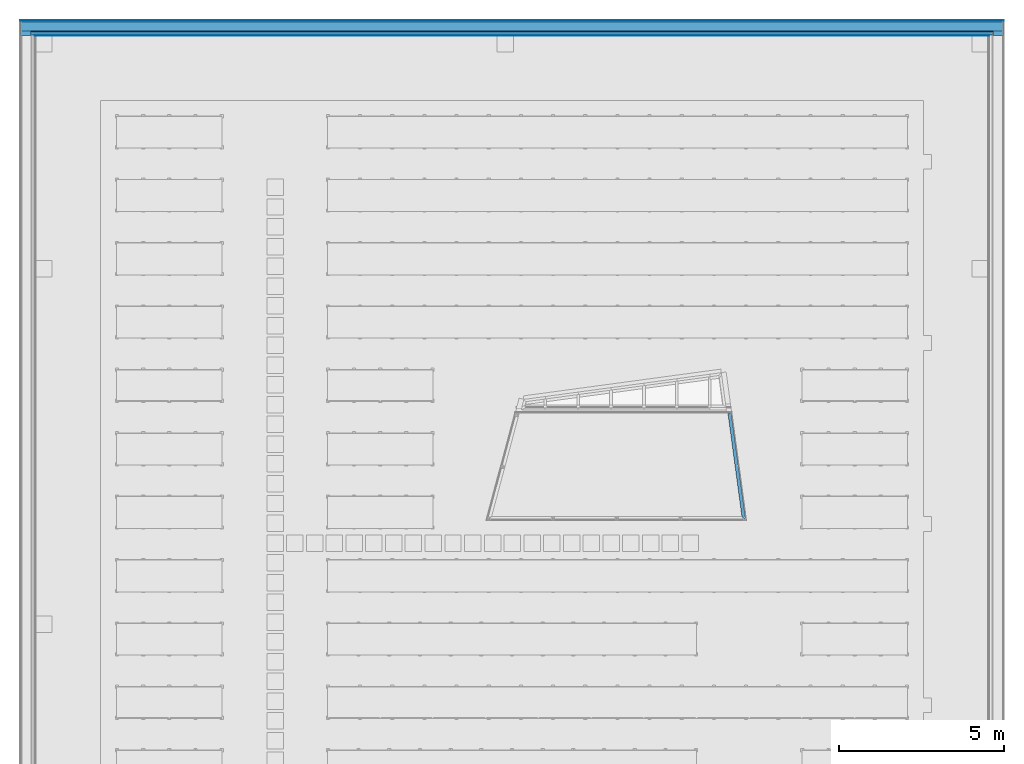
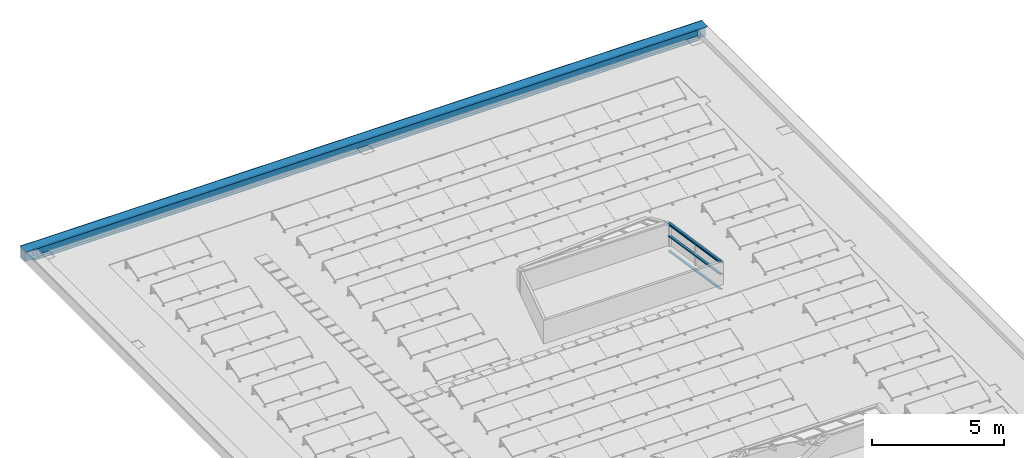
# One storey, part 14 of 20: 13 building element parts, 2 elements without a shape of their own.
"""IFC2X3 building model written with IfcOpenShell, lengths in millimetres."""

from ifc_helpers import new_model, entity, si_unit, converted_unit, derived_unit, money_unit, direction, frame, origin_with_axes, place, context, subcontext, project, spatial, faceted_brep, material, type_object, element, aggregate, save


model = new_model("IFC2X3")

# Units and contexts
model_context = context("Model", 3, precision=0.01, world=origin_with_axes(), true_north=direction((0.0, 1.0)))
plan_context = context("Plan", 3, precision=0.01, world=origin_with_axes(), true_north=direction((0.0, 1.0)))
body_context = subcontext(model_context, "Body", "Model", "MODEL_VIEW")
ifc_project = project(units=[si_unit("LENGTHUNIT", "METRE", prefix="MILLI"), si_unit("AREAUNIT", "SQUARE_METRE"), si_unit("VOLUMEUNIT", "CUBIC_METRE"), converted_unit("PLANEANGLEUNIT", "DEGREE", entity("IfcPlaneAngleMeasure", 0.0174532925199), si_unit("PLANEANGLEUNIT", "RADIAN"), dimensions=[0, 0, 0, 0, 0, 0, 0]), si_unit("SOLIDANGLEUNIT", "STERADIAN"), money_unit("EUR"), converted_unit("TIMEUNIT", "Year", entity("IfcTimeMeasure", 31556926.0), si_unit("TIMEUNIT", "SECOND"), dimensions=[0, 0, 1, 0, 0, 0, 0]), si_unit("MASSUNIT", "GRAM", prefix="KILO"), si_unit("THERMODYNAMICTEMPERATUREUNIT", "DEGREE_CELSIUS"), si_unit("LUMINOUSINTENSITYUNIT", "LUMEN"), si_unit("ENERGYUNIT", "JOULE", prefix="MEGA"), derived_unit("THERMALCONDUCTANCEUNIT", [(si_unit("POWERUNIT", "WATT"), 1), (si_unit("LENGTHUNIT", "METRE"), -1), (si_unit("THERMODYNAMICTEMPERATUREUNIT", "KELVIN"), -1)]), derived_unit("SPECIFICHEATCAPACITYUNIT", [(si_unit("ENERGYUNIT", "JOULE"), 1), (si_unit("MASSUNIT", "GRAM", prefix="KILO"), -1), (si_unit("THERMODYNAMICTEMPERATUREUNIT", "KELVIN"), -1)]), derived_unit("MASSDENSITYUNIT", [(si_unit("MASSUNIT", "GRAM", prefix="KILO"), 1), (si_unit("VOLUMEUNIT", "CUBIC_METRE"), -1)])], contexts=[model_context, plan_context])

# Site, building, storey
site_placement = place(None, origin_with_axes())
site = spatial("IfcSite", under=ifc_project, at=site_placement, Name="Site", CompositionType="ELEMENT")
building_placement = place(site_placement, origin_with_axes())
building = spatial("IfcBuilding", under=site, at=building_placement, Name="Naam gebouw", CompositionType="ELEMENT")
storey_placement = place(building_placement, frame((0.0, 0.0, 7920.0), z_axis=(0.0, 0.0, 1.0), x_axis=(1.0, 0.0, 0.0)))
storey = spatial("IfcBuildingStorey", under=building, at=storey_placement, Name="2e verdieping", CompositionType="ELEMENT", Elevation=7920.0)

# Wall, building element parts
wall_type = type_object("IfcWallType", Name="_TenW_27_dakrand_01 473 x 542", PredefinedType="NOTDEFINED")
wall_placement = place(storey_placement, frame((29200.0, 50400.0, 0.0), z_axis=(0.0, 0.0, 1.0), x_axis=(-1.0, 0.0, 0.0)))
wall = element("IfcWall", 1, at=wall_placement, inside=storey, type_object=wall_type, Name="21_Wand_Wand-x")
ifc_material_1 = material(Name="Membraan - waterdicht")
building_element_part_1_placement = place(wall_placement, origin_with_axes())
building_element_part_1 = element("IfcBuildingElementPart", 2, at=building_element_part_1_placement, material=ifc_material_1, Name="Membraan - waterdicht", context=body_context, shape_type="Brep", body=[
    faceted_brep([(138.42922846, 139.429230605, 245.0), (138.42922846, 138.429230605, 245.0), (138.42922846, 138.429230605, 529.388912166), (138.42922846, 139.429230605, 529.388912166), (29061.5707715, 138.429230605, 245.0), (29061.5707715, 139.429230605, 245.0), (29061.5707715, 138.429230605, 529.388912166), (-324.789198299, 139.429230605, 529.388912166), (-324.789198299, 138.429230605, 529.388912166), (-324.789198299, 139.429230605, 530.388913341), (29524.7891983, 139.429230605, 530.388913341), (29524.7891983, 139.429230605, 529.388912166), (29061.5707715, 139.429230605, 529.388912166), (29524.7891983, 138.429230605, 529.388912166), (29524.7891983, -324.789202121, 529.388913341), (-324.789198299, -324.789202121, 529.388913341), (-324.789198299, -324.789202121, 530.388913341), (29524.7891983, -324.789202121, 530.388913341)], [[[0, 1, 2, 3]], [[4, 1, 0, 5]], [[1, 4, 6, 2]], [[7, 3, 2, 8]], [[5, 0, 3, 7, 9, 10, 11, 12]], [[4, 5, 12, 6]], [[2, 6, 13, 14, 15, 8]], [[16, 9, 7, 8, 15]], [[16, 17, 10, 9]], [[14, 13, 11, 10, 17]], [[6, 12, 11, 13]], [[15, 14, 17, 16]]]),
])
ifc_material_2 = material(Name="Hout - Multiplex")
building_element_part_2_placement = place(wall_placement, origin_with_axes())
building_element_part_2 = element("IfcBuildingElementPart", 3, at=building_element_part_2_placement, material=ifc_material_2, Name="Hout - Multiplex", context=body_context, shape_type="Brep", body=[
    faceted_brep([(119.976073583, 137.976077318, 240.0), (119.976073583, 119.976074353, 240.0), (119.976074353, 119.976072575, 471.373647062), (119.976074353, 137.97607732, 471.373649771), (29080.0239264, 119.976074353, 240.0), (29080.0239264, 137.976077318, 240.0), (29080.0239256, 119.976072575, 471.373649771), (119.976084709, 119.976081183, 509.060682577), (119.976084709, 137.976077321, 509.060682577), (119.976081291, 137.976078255, 509.366891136), (29080.0239187, 137.976078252, 509.366891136), (29080.0239153, 137.976077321, 509.060682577), (29080.0239256, 137.97607732, 471.373649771), (29080.0239153, 119.976081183, 509.060682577), (119.976081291, 119.976080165, 509.366891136), (29080.0239187, 119.976080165, 509.366891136)], [[[0, 1, 2, 3]], [[4, 1, 0, 5]], [[1, 4, 6, 2]], [[7, 8, 3, 2]], [[5, 0, 3, 8, 9, 10, 11, 12]], [[4, 5, 12, 6]], [[2, 6, 13, 7]], [[9, 8, 7, 14]], [[14, 15, 10, 9]], [[15, 13, 11, 10]], [[6, 12, 11, 13]], [[7, 13, 15, 14]]]),
])
ifc_material_3 = material(Name="Hout C")
building_element_part_3_placement = place(wall_placement, origin_with_axes())
building_element_part_3 = element("IfcBuildingElementPart", 4, at=building_element_part_3_placement, material=ifc_material_3, Name="Hout C", context=body_context, shape_type="Brep", body=[
    faceted_brep([(18.4936515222, 18.4936521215, 37.9754133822), (29181.5063485, 18.4936521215, 37.9754133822), (29181.5063485, 119.976072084, 37.9754133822), (18.4936515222, 119.976072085, 37.9754133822), (18.5136353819, 18.5136337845, 6.65253132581e-05), (29181.4863646, 18.5136337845, 6.65253132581e-05), (29181.4863646, 119.976072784, 6.65253132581e-05), (18.5136353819, 119.976072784, 6.65253132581e-05)], [[[0, 1, 2, 3]], [[4, 5, 1, 0]], [[5, 6, 2, 1]], [[3, 2, 6, 7]], [[3, 7, 4, 0]], [[4, 7, 6, 5]]]),
])
building_element_part_4_placement = place(wall_placement, origin_with_axes())
building_element_part_4 = element("IfcBuildingElementPart", 5, at=building_element_part_4_placement, material=ifc_material_3, Name="Hout C", context=body_context, shape_type="Brep", body=[
    faceted_brep([(29182.0917192, 119.831228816, 471.373652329), (29182.0917192, 17.9082871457, 471.373648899), (17.9082808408, 17.9082870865, 471.373648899), (17.9082808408, 119.831228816, 471.373652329), (29182.0917117, 119.831233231, 509.060682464), (29182.0917116, 119.831235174, 509.366893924), (29182.0917137, 17.9082863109, 509.508760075), (17.9082862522, 17.9082863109, 509.508760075), (17.9082883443, 119.831233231, 509.060682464), (17.9082884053, 119.831235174, 509.366893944)], [[[0, 1, 2, 3]], [[0, 4, 5, 6, 1]], [[1, 6, 7, 2]], [[8, 3, 2, 7, 9]], [[4, 0, 3, 8]], [[5, 4, 8, 9]], [[6, 5, 9, 7]]]),
])
building_element_part_5_placement = place(wall_placement, origin_with_axes())
building_element_part_5 = element("IfcBuildingElementPart", 6, at=building_element_part_5_placement, material=ifc_material_2, Name="Hout - Multiplex", context=body_context, shape_type="Brep", body=[
    faceted_brep([(29200.0, 17.9082808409, 471.373647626), (29200.0, 1.58033941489e-06, 471.373647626), (8.11439804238e-09, 1.58033941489e-06, 471.373647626), (8.11439804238e-09, 17.9082808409, 471.373647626), (29200.0, 17.9082883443, 509.060682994), (29200.0, 1.66487268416e-06, 509.060682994), (0.0, 1.66486557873e-06, 509.060682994), (0.0, 17.9082883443, 509.060682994), (-0.0911615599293, 17.9082883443, 509.060678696), (-0.0916934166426, 17.9082884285, 509.483711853), (17.9082862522, 17.9082884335, 509.508760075), (29182.0917137, 17.9082884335, 509.508760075), (29200.0916934, 17.9082884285, 509.483711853), (29200.0911616, 17.9082883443, 509.060678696), (29200.0911616, -0.0911633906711, 509.060686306), (-0.0911615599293, -0.0911633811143, 509.060678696), (-0.0916934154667, -0.0916948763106, 509.483710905), (29200.0916934, -0.0916948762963, 509.483710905)], [[[0, 1, 2, 3]], [[0, 4, 5, 1]], [[1, 5, 6, 2]], [[3, 2, 6, 7]], [[4, 0, 3, 7, 8, 9, 10, 11, 12, 13]], [[4, 13, 14, 15, 8, 7, 6, 5]], [[9, 8, 15, 16]], [[10, 9, 16]], [[17, 11, 10, 16]], [[17, 12, 11]], [[13, 12, 17, 14]], [[14, 17, 16, 15]]]),
    faceted_brep([(29199.4535025, 18.5136353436, 6.88062833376e-05), (29199.5010731, 18.4936515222, 37.9754133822), (29199.5010731, 0.498929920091, 37.9754133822), (29199.4535025, 0.546496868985, 6.88062833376e-05), (1.4292306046, 18.5136353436, 6.88062833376e-05), (0.54649751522, 18.5136353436, 6.88062833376e-05), (0.4989268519, 18.4936515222, 37.9754133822), (0.4989268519, 0.498929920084, 37.9754133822), (0.54649751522, 0.546496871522, 6.88062833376e-05), (1.4292306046, 0.546496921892, -7.59371232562e-07)], [[[0, 1, 2, 3]], [[1, 0, 4, 5, 6]], [[1, 6, 7, 2]], [[3, 2, 7, 8, 9]], [[4, 0, 3, 9]], [[4, 9, 8, 5]], [[5, 8, 7, 6]]]),
])
ifc_material_4 = material(Name="Isolatie - Glaswol zacht")
building_element_part_6_placement = place(wall_placement, origin_with_axes())
building_element_part_6 = element("IfcBuildingElementPart", 7, at=building_element_part_6_placement, material=ifc_material_4, Name="Isolatie - Glaswol zacht", context=body_context, shape_type="Brep", body=[
    faceted_brep([(1.4292306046, 0.0, 240.0), (29200.0, 0.0, 240.0), (29200.0, 1.01678665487e-07, 471.373644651), (8.11439804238e-09, 1.0167156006e-07, 471.373644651), (1.01675112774e-07, 1.0167156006e-07, 37.9754133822), (1.4292306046, 0.0, 37.9754161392), (1.4292306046, 119.976074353, 240.0), (29200.0, 119.976074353, 240.0), (29200.0, 119.976074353, 471.373644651), (29200.0, 119.831234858, 471.373644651), (8.11439804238e-09, 119.831234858, 471.373644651), (1.01675112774e-07, 119.976074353, 37.9754133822), (1.01675112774e-07, 0.498929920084, 37.9754133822), (8.11439804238e-09, 119.976074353, 471.373644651), (1.4292306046, 0.498929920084, 37.9754133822), (1.4292306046, 18.4936515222, 37.9754133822), (1.4292306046, 119.976074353, 37.9754133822)], [[[0, 1, 2, 3, 4, 5]], [[1, 0, 6, 7]], [[1, 7, 8, 9, 2]], [[3, 2, 9, 10]], [[11, 12, 4, 3, 10, 13]], [[14, 5, 4, 12]], [[0, 5, 14, 15, 16, 6]], [[6, 16, 11, 13, 8, 7]], [[10, 9, 8, 13]], [[15, 14, 12, 11, 16]]]),
])
building_element_part_7_placement = place(wall_placement, origin_with_axes())
building_element_part_7 = element("IfcBuildingElementPart", 8, at=building_element_part_7_placement, material=ifc_material_4, Name="Isolatie - Glaswol zacht", context=body_context, shape_type="Brep", body=[
    faceted_brep([(-303.999997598, 1.0167156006e-07, 37.9754133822), (29503.9999976, 1.01678665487e-07, 37.9754133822), (29503.9999976, 0.0, -3.91967791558e-06), (-303.999997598, 0.0, -3.91967791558e-06), (-303.999997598, 0.0, 509.060682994), (29503.9999976, 0.0, 509.060682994), (29503.9999976, -304.0, -3.91967791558e-06), (29503.9999976, -304.000000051, 509.060682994), (-303.999997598, -304.000000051, -3.91967791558e-06), (-303.999997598, -304.000000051, 509.060682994)], [[[0, 1, 2, 3]], [[4, 5, 1, 0]], [[6, 2, 1, 5, 7]], [[3, 2, 6, 8]], [[4, 0, 3, 8, 9]], [[7, 5, 4, 9]], [[8, 6, 7, 9]]]),
])
building_element_part_8_placement = place(wall_placement, origin_with_axes())
building_element_part_8 = element("IfcBuildingElementPart", 9, at=building_element_part_8_placement, material=ifc_material_2, Name="Hout - Multiplex", context=body_context, shape_type="Brep", body=[
    faceted_brep([(29523.3181359, 17.9091777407, 509.508762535), (29523.3181359, 137.976080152, 509.508762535), (29523.3181359, 137.976080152, 526.546857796), (29523.3181359, -277.984633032, 526.546857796), (29523.3181359, -323.318138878, 526.546857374), (29523.3181359, -323.318138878, 509.060688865), (29523.3181359, -0.091162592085, 509.060678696), (29523.3181359, -0.0916913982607, 509.483713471), (29523.3181359, 12.5479571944, 509.50130164), (29182.0917137, 17.9082862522, 509.508761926), (29182.0917137, 137.976080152, 509.508760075), (29477.9846239, 137.976080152, 526.54685988), (29080.1687648, 137.976080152, 509.366893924), (119.831235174, 137.976080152, 509.366893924), (17.9082862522, 137.976080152, 509.508760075), (-323.318135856, 137.976080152, 509.508762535), (-323.318135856, 137.976080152, 526.546857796), (-277.984623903, 137.976080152, 526.54685988), (-277.984633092, 137.976080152, 527.060685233), (29477.9846331, 137.976080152, 527.060685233), (29477.9846239, -277.984633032, 526.54685988), (-277.984623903, -277.984633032, 526.54685988), (-323.318135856, -277.984633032, 526.546857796), (-323.318135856, -323.318138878, 526.546857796), (-323.318135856, -323.318138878, 509.060688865), (-323.318135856, -0.091162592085, 509.060678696), (-323.318135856, -0.0916913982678, 509.483713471), (-323.318135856, 12.5479571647, 509.50130164), (-323.318135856, 17.9091777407, 509.508762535), (17.9082862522, 17.9082862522, 509.508761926), (29080.7450453, 119.831233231, 509.366965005), (29080.1687648, 119.976079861, 509.366888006), (119.831235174, 119.976079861, 509.366888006), (119.798708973, 119.976074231, 509.366885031), (119.831235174, 119.831234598, 509.366888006), (119.798443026, 119.831233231, 509.366888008), (-277.984633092, -277.984633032, 527.060685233), (29477.9846331, -277.984633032, 527.060685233), (29080.1687648, 119.831234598, 509.366888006), (29080.1687663, 119.976079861, 509.06068655), (119.831233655, 119.976079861, 509.06068655), (119.831233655, 119.831234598, 509.06068655), (29080.1687663, 119.831234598, 509.06068655)], [[[0, 1, 2, 3, 4, 5, 6, 7, 8]], [[1, 0, 9, 10]], [[11, 2, 1, 10, 12, 13, 14, 15, 16, 17, 18, 19]], [[2, 11, 20, 3]], [[3, 20, 21, 22, 23, 4]], [[5, 4, 23, 24]], [[6, 5, 24, 25]], [[7, 6, 25, 26]], [[0, 8, 7, 26, 27, 28, 29, 9]], [[12, 10, 9, 30, 31]], [[12, 31, 32, 33, 13]], [[14, 13, 33, 32, 34, 35, 29]], [[14, 29, 28, 15]], [[15, 28, 27, 26, 25, 24, 23, 22, 16]], [[17, 16, 22, 21]], [[18, 17, 21, 36]], [[37, 19, 18, 36]], [[11, 19, 37, 20]], [[20, 37, 36, 21]], [[38, 31, 30, 9, 29, 35, 34]], [[31, 39, 40, 32]], [[32, 40, 41, 34]], [[39, 31, 38, 42]], [[42, 38, 34, 41]], [[40, 39, 42, 41]]]),
])
ifc_material_5 = material(Name="_TenW_21_Steen - Baksteen")
building_element_part_9_placement = place(wall_placement, origin_with_axes())
building_element_part_9 = element("IfcBuildingElementPart", 10, at=building_element_part_9_placement, material=ifc_material_5, Name="_TenW_21_Steen - Baksteen", context=body_context, shape_type="Brep", body=[
    faceted_brep([(-323.999995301, -323.318138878, 509.060682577), (-323.999995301, -324.0, 509.060682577), (29523.9999953, -324.0, 509.060682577), (29523.9999953, -323.318138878, 509.060682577), (-324.000003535, -324.0, 472.223595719), (-323.999995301, -303.999997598, 509.060682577), (-324.000003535, -303.999997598, 472.223595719), (-324.000000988, -303.999997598, -3.91967791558e-06), (-324.000000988, -324.0, -3.91967791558e-06), (29524.000001, -324.0, -3.91967791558e-06), (29524.0000035, -324.0, 472.223595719), (29524.0000035, -303.999997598, 472.223595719), (29523.9999953, -303.999997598, 509.060682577), (29524.000001, -303.999997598, -3.91967791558e-06)], [[[0, 1, 2, 3]], [[4, 1, 0, 5, 6, 7, 8]], [[1, 4, 8, 9, 10, 2]], [[11, 12, 3, 2, 10, 9, 13]], [[5, 0, 3, 12]], [[6, 5, 12, 11, 13, 7]], [[9, 8, 7, 13]]]),
])
ifc_material_6 = material(Name="Metaal - Aluminium")
building_element_part_10_placement = place(wall_placement, origin_with_axes())
building_element_part_10 = element("IfcBuildingElementPart", 11, at=building_element_part_10_placement, material=ifc_material_6, Name="Metaal - Aluminium", context=body_context, shape_type="Brep", body=[
    faceted_brep([(-334.046316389, -323.047997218, 542.256350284), (-334.046316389, -334.046318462, 542.256350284), (29534.0463164, -334.046318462, 542.256350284), (29534.0463164, -323.047997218, 542.256350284), (-334.046316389, -334.046318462, 472.223595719), (-334.046316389, -323.047997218, 540.292434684), (-334.046316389, -332.046318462, 540.292434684), (-334.046316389, -332.046318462, 528.546859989), (-334.046316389, -277.984623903, 528.546859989), (-334.046316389, -277.984633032, 527.060685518), (-334.046316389, -277.984623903, 526.546859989), (-334.046316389, -323.318138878, 526.546857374), (-334.046316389, -332.046318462, 526.546859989), (-334.046316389, -332.046318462, 474.418140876), (-334.046316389, -326.081756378, 474.418140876), (-334.046316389, -326.081756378, 472.223595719), (29534.0463164, -334.046318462, 472.223595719), (29534.0463164, -326.081756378, 472.223595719), (29534.0463164, -326.081756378, 474.418140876), (29534.0463164, -332.046318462, 474.418140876), (29534.0463164, -332.046318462, 526.546859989), (29534.0463164, -323.318138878, 526.546857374), (29534.0463164, -277.984623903, 526.546859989), (29534.0463164, -277.984633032, 527.060685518), (29534.0463164, -277.984623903, 528.546859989), (29534.0463164, -332.046318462, 528.546859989), (29534.0463164, -332.046318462, 540.292434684), (29534.0463164, -323.047997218, 540.292434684)], [[[0, 1, 2, 3]], [[4, 1, 0, 5, 6, 7, 8, 9, 10, 11, 12, 13, 14, 15]], [[1, 4, 16, 2]], [[3, 2, 16, 17, 18, 19, 20, 21, 22, 23, 24, 25, 26, 27]], [[5, 0, 3, 27]], [[6, 5, 27, 26]], [[7, 6, 26, 25]], [[8, 7, 25, 24]], [[9, 8, 24, 23]], [[10, 9, 23, 22]], [[11, 10, 22, 21]], [[12, 11, 21, 20]], [[13, 12, 20, 19]], [[14, 13, 19, 18]], [[15, 14, 18, 17]], [[4, 15, 17, 16]]]),
])
aggregate(wall, [building_element_part_1, building_element_part_2, building_element_part_3, building_element_part_4, building_element_part_5, building_element_part_6, building_element_part_7, building_element_part_8, building_element_part_9, building_element_part_10])

# Beam, building element parts
beam_type = type_object("IfcBeamType", Name="_TenW_27_installatiescherm 01 115 x 1322", PredefinedType="BEAM")
beam_placement = place(storey_placement, frame((21532.6695952, 35700.7724313, 0.0), z_axis=(0.0, 0.0, 1.0), x_axis=(0.990952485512, 0.134213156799, 0.0)))
beam = element("IfcBeam", 12, at=beam_placement, inside=storey, type_object=beam_type, Name="28_Balk_Regenwaterafvoer-x", ObjectType="BEAM")
ifc_material_7 = material(Name="Metaal - Staal AFW")
building_element_part_11_placement = place(beam_placement, origin_with_axes())
building_element_part_11 = element("IfcBuildingElementPart", 13, at=building_element_part_11_placement, material=ifc_material_7, Name="Metaal - Staal AFW", context=body_context, shape_type="Brep", body=[
    faceted_brep([(139.999708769, 3107.42274893, 1219.97099805), (139.999708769, 3107.42274893, 1227.97099805), (139.999708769, -160.239278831, 1227.97099805), (139.999708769, -160.239278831, 1219.97099805), (39.999708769, 3107.42274893, 1219.97099805), (39.999708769, 3107.42274893, 1227.97099805), (75.499708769, 3107.42274893, 1227.97099805), (83.9849901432, 3107.42274893, 1231.48571668), (87.499708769, 3107.42274893, 1239.97099805), (87.499708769, 3107.42274893, 1295.97099805), (83.9849901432, 3107.42274893, 1304.45627943), (75.499708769, 3107.42274893, 1307.97099805), (39.999708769, 3107.42274893, 1307.97099805), (39.999708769, 3107.42274893, 1315.97099805), (139.999708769, 3107.42274893, 1315.97099805), (139.999708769, 3107.42274893, 1307.97099805), (104.499708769, 3107.42274893, 1307.97099805), (96.0144273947, 3107.42274893, 1304.45627943), (92.499708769, 3107.42274893, 1295.97099805), (92.499708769, 3107.42274893, 1239.97099805), (96.0144273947, 3107.42274893, 1231.48571668), (104.499708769, 3107.42274893, 1227.97099805), (104.499708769, -119.60709146, 1227.97099805), (96.0144273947, -109.895104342, 1231.48571668), (92.499708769, -105.87226756, 1239.97099805), (92.499708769, -105.87226756, 1295.97099805), (96.0144273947, -109.895104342, 1304.45627943), (104.499708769, -119.60709146, 1307.97099805), (139.999708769, -160.239278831, 1307.97099805), (139.999708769, -160.239278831, 1315.97099805), (39.999708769, -45.7824129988, 1315.97099805), (39.999708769, -45.7824129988, 1307.97099805), (75.499708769, -86.4146003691, 1307.97099805), (83.9849901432, -96.126587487, 1304.45627943), (87.499708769, -100.149424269, 1295.97099805), (87.499708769, -100.149424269, 1239.97099805), (83.9849901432, -96.126587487, 1231.48571668), (75.499708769, -86.4146003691, 1227.97099805), (39.999708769, -45.7824129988, 1227.97099805), (39.999708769, -45.7824129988, 1219.97099805)], [[[0, 1, 2, 3]], [[0, 4, 5, 6, 7, 8, 9, 10, 11, 12, 13, 14, 15, 16, 17, 18, 19, 20, 21, 1]], [[1, 21, 22, 2]], [[3, 2, 22, 23, 24, 25, 26, 27, 28, 29, 30, 31, 32, 33, 34, 35, 36, 37, 38, 39]], [[4, 0, 3, 39]], [[5, 4, 39, 38]], [[6, 5, 38, 37]], [[7, 6, 37, 36]], [[8, 7, 36, 35]], [[9, 8, 35, 34]], [[10, 9, 34, 33]], [[11, 10, 33, 32]], [[12, 11, 32, 31]], [[13, 12, 31, 30]], [[14, 13, 30, 29]], [[15, 14, 29, 28]], [[16, 15, 28, 27]], [[17, 16, 27, 26]], [[18, 17, 26, 25]], [[19, 18, 25, 24]], [[20, 19, 24, 23]], [[21, 20, 23, 22]]]),
])
building_element_part_12_placement = place(beam_placement, origin_with_axes())
building_element_part_12 = element("IfcBuildingElementPart", 14, at=building_element_part_12_placement, material=ifc_material_3, Name="Hout C", context=body_context, shape_type="Brep", body=[
    faceted_brep([(39.999708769, -45.7824129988, -7.59370344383e-07), (139.999706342, -160.239276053, -7.59370344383e-07), (139.999708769, -160.239278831, 49.8467204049), (39.999708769, -45.7824129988, 49.9999951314), (139.999706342, 3107.42274893, -7.59370344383e-07), (39.999708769, 3107.42274893, -7.59370344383e-07), (139.999708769, 3107.42274893, 49.8467204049), (39.999708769, 3107.42274893, 49.9999951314)], [[[0, 1, 2, 3]], [[4, 1, 0, 5]], [[1, 4, 6, 2]], [[2, 6, 7, 3]], [[5, 0, 3, 7]], [[4, 5, 7, 6]]]),
])
building_element_part_13_placement = place(beam_placement, origin_with_axes())
building_element_part_13 = element("IfcBuildingElementPart", 15, at=building_element_part_13_placement, material=ifc_material_3, Name="Hout C", context=body_context, shape_type="Brep", body=[
    faceted_brep([(139.999706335, 3107.42274893, 693.463416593), (139.999708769, 3107.42274893, 743.463416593), (139.999708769, -160.239278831, 743.463416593), (139.999706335, -160.239276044, 693.463416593), (39.999708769, 3107.42274893, 693.616696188), (39.999708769, 3107.42274893, 743.61669132), (39.999708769, -45.7824129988, 743.61669132), (39.999708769, -45.7824129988, 693.616696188)], [[[0, 1, 2, 3]], [[0, 4, 5, 1]], [[1, 5, 6, 2]], [[3, 2, 6, 7]], [[4, 0, 3, 7]], [[5, 4, 7, 6]]]),
])
aggregate(beam, [building_element_part_11, building_element_part_12, building_element_part_13])

save(model, "model.ifc")
